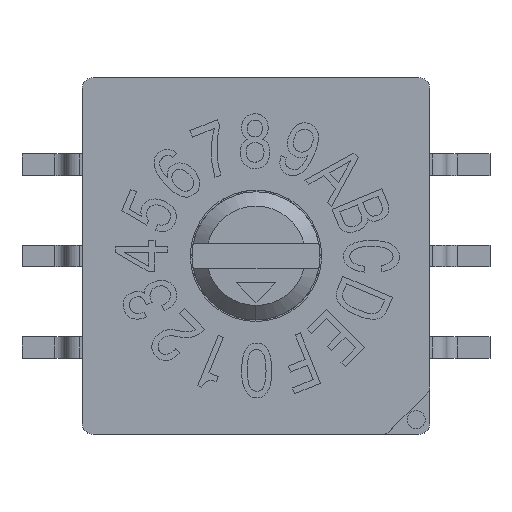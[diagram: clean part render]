
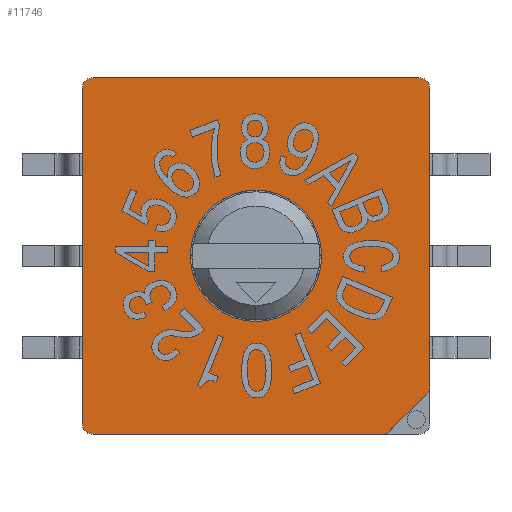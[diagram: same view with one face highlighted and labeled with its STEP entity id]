
A CAD part, top view. The second image highlights one B-rep face of the part: STEP entity #11746.
In plain terms, the highlighted planar face has unit normal (0, 0, 1) as drawn and (0, 0, -1) by its records, which use the part's own axes.
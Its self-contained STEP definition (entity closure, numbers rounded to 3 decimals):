
#594 = CARTESIAN_POINT ( 'NONE',  ( -1.825, 0., 0. ) ) ;
#595 = DIRECTION ( 'NONE',  ( 1., 0., 0. ) ) ;
#596 = DIRECTION ( 'NONE',  ( 0., 0., 1. ) ) ;
#597 = CARTESIAN_POINT ( 'NONE',  ( 0., 0., 0. ) ) ;
#598 = AXIS2_PLACEMENT_3D ( 'NONE', #597, #596, #595 ) ;
#599 = CIRCLE ( 'NONE', #598, 1.825 ) ;
#615 = CARTESIAN_POINT ( 'NONE',  ( 1.825, 0., 0. ) ) ;
#774 = AXIS2_PLACEMENT_3D ( 'NONE', #837, #836, #835 ) ;
#775 = CIRCLE ( 'NONE', #774, 1.825 ) ;
#776 = DIRECTION ( 'NONE',  ( 1., 0., 0. ) ) ;
#777 = DIRECTION ( 'NONE',  ( 0., 0., -1. ) ) ;
#778 = CARTESIAN_POINT ( 'NONE',  ( 4.525, -4.655, 0. ) ) ;
#779 = AXIS2_PLACEMENT_3D ( 'NONE', #778, #777, #776 ) ;
#780 = CIRCLE ( 'NONE', #779, 0.3 ) ;
#781 = CARTESIAN_POINT ( 'NONE',  ( 4.825, -4.655, 0. ) ) ;
#782 = DIRECTION ( 'NONE',  ( 0., 1., 0. ) ) ;
#783 = VECTOR ( 'NONE', #782, 1000. ) ;
#784 = CARTESIAN_POINT ( 'NONE',  ( 4.825, 4.955, 0. ) ) ;
#785 = LINE ( 'NONE', #784, #783 ) ;
#807 = CARTESIAN_POINT ( 'NONE',  ( -4.525, 4.955, 0. ) ) ;
#808 = DIRECTION ( 'NONE',  ( 1., 0., 0. ) ) ;
#809 = DIRECTION ( 'NONE',  ( 0., 0., -1. ) ) ;
#810 = CARTESIAN_POINT ( 'NONE',  ( -4.525, 4.655, 0. ) ) ;
#811 = AXIS2_PLACEMENT_3D ( 'NONE', #810, #809, #808 ) ;
#812 = CIRCLE ( 'NONE', #811, 0.3 ) ;
#813 = CARTESIAN_POINT ( 'NONE',  ( -4.825, 4.655, 0. ) ) ;
#814 = DIRECTION ( 'NONE',  ( 0., -1., 0. ) ) ;
#815 = VECTOR ( 'NONE', #814, 1000. ) ;
#816 = CARTESIAN_POINT ( 'NONE',  ( -4.825, 4.955, 0. ) ) ;
#817 = LINE ( 'NONE', #816, #815 ) ;
#818 = CARTESIAN_POINT ( 'NONE',  ( -4.825, -3.631, 0. ) ) ;
#819 = DIRECTION ( 'NONE',  ( 1., 0., 0. ) ) ;
#820 = DIRECTION ( 'NONE',  ( 0., 0., -1. ) ) ;
#821 = CARTESIAN_POINT ( 'NONE',  ( -4.525, -3.631, 0. ) ) ;
#822 = AXIS2_PLACEMENT_3D ( 'NONE', #821, #820, #819 ) ;
#823 = CIRCLE ( 'NONE', #822, 0.3 ) ;
#824 = CARTESIAN_POINT ( 'NONE',  ( -4.737, -3.843, 0. ) ) ;
#825 = DIRECTION ( 'NONE',  ( 0.707, -0.707, 0. ) ) ;
#826 = VECTOR ( 'NONE', #825, 1000. ) ;
#827 = CARTESIAN_POINT ( 'NONE',  ( -4.825, -3.755, 0. ) ) ;
#828 = LINE ( 'NONE', #827, #826 ) ;
#829 = CARTESIAN_POINT ( 'NONE',  ( -3.713, -4.867, 0. ) ) ;
#830 = DIRECTION ( 'NONE',  ( 1., 0., 0. ) ) ;
#831 = DIRECTION ( 'NONE',  ( 0., 0., -1. ) ) ;
#832 = CARTESIAN_POINT ( 'NONE',  ( -3.501, -4.655, 0. ) ) ;
#833 = AXIS2_PLACEMENT_3D ( 'NONE', #832, #831, #830 ) ;
#834 = CIRCLE ( 'NONE', #833, 0.3 ) ;
#835 = DIRECTION ( 'NONE',  ( 1., 0., 0. ) ) ;
#836 = DIRECTION ( 'NONE',  ( 0., 0., 1. ) ) ;
#837 = CARTESIAN_POINT ( 'NONE',  ( 0., 0., 0. ) ) ;
#843 = CARTESIAN_POINT ( 'NONE',  ( 4.525, -4.955, 0. ) ) ;
#844 = CARTESIAN_POINT ( 'NONE',  ( -3.501, -4.955, 0. ) ) ;
#845 = DIRECTION ( 'NONE',  ( 1., 0., 0. ) ) ;
#846 = VECTOR ( 'NONE', #845, 1000. ) ;
#847 = CARTESIAN_POINT ( 'NONE',  ( -4.825, -4.955, 0. ) ) ;
#848 = LINE ( 'NONE', #847, #846 ) ;
#849 = DIRECTION ( 'NONE',  ( 1., 0., 0. ) ) ;
#850 = DIRECTION ( 'NONE',  ( 0., 0., 1. ) ) ;
#851 = AXIS2_PLACEMENT_3D ( 'NONE', #852, #850, #849 ) ;
#852 = CARTESIAN_POINT ( 'NONE',  ( 4.825, -4.955, 0. ) ) ;
#853 = PLANE ( 'NONE',  #851 ) ;
#854 = FACE_BOUND ( 'NONE', #11712, .T. ) ;
#855 = FACE_OUTER_BOUND ( 'NONE', #11747, .T. ) ;
#904 = DIRECTION ( 'NONE',  ( -1., 0., 0. ) ) ;
#905 = VECTOR ( 'NONE', #904, 1000. ) ;
#906 = CARTESIAN_POINT ( 'NONE',  ( -4.825, 4.955, 0. ) ) ;
#907 = LINE ( 'NONE', #906, #905 ) ;
#958 = CARTESIAN_POINT ( 'NONE',  ( 4.825, 4.655, 0. ) ) ;
#959 = DIRECTION ( 'NONE',  ( 1., 0., 0. ) ) ;
#960 = DIRECTION ( 'NONE',  ( 0., 0., -1. ) ) ;
#961 = CARTESIAN_POINT ( 'NONE',  ( 4.525, 4.655, 0. ) ) ;
#962 = AXIS2_PLACEMENT_3D ( 'NONE', #961, #960, #959 ) ;
#963 = CIRCLE ( 'NONE', #962, 0.3 ) ;
#964 = CARTESIAN_POINT ( 'NONE',  ( 4.525, 4.955, 0. ) ) ;
#11517 = VERTEX_POINT ( 'NONE', #615 ) ;
#11521 = EDGE_CURVE ( 'NONE', #11523, #11517, #599, .T. ) ;
#11523 = VERTEX_POINT ( 'NONE', #594 ) ;
#11707 = EDGE_CURVE ( 'NONE', #11708, #11832, #785, .T. ) ;
#11708 = VERTEX_POINT ( 'NONE', #781 ) ;
#11709 = ORIENTED_EDGE ( 'NONE', *, *, #11710, .T. ) ;
#11710 = EDGE_CURVE ( 'NONE', #11708, #11754, #780, .T. ) ;
#11712 = EDGE_LOOP ( 'NONE', ( #11713, #11714 ) ) ;
#11713 = ORIENTED_EDGE ( 'NONE', *, *, #11521, .T. ) ;
#11714 = ORIENTED_EDGE ( 'NONE', *, *, #11715, .T. ) ;
#11715 = EDGE_CURVE ( 'NONE', #11517, #11523, #775, .T. ) ;
#11717 = EDGE_CURVE ( 'NONE', #11752, #11718, #834, .T. ) ;
#11718 = VERTEX_POINT ( 'NONE', #829 ) ;
#11719 = ORIENTED_EDGE ( 'NONE', *, *, #11720, .F. ) ;
#11720 = EDGE_CURVE ( 'NONE', #11721, #11718, #828, .T. ) ;
#11721 = VERTEX_POINT ( 'NONE', #824 ) ;
#11722 = ORIENTED_EDGE ( 'NONE', *, *, #11723, .T. ) ;
#11723 = EDGE_CURVE ( 'NONE', #11721, #11724, #823, .T. ) ;
#11724 = VERTEX_POINT ( 'NONE', #818 ) ;
#11725 = ORIENTED_EDGE ( 'NONE', *, *, #11726, .F. ) ;
#11726 = EDGE_CURVE ( 'NONE', #11727, #11724, #817, .T. ) ;
#11727 = VERTEX_POINT ( 'NONE', #813 ) ;
#11728 = ORIENTED_EDGE ( 'NONE', *, *, #11729, .T. ) ;
#11729 = EDGE_CURVE ( 'NONE', #11727, #11730, #812, .T. ) ;
#11730 = VERTEX_POINT ( 'NONE', #807 ) ;
#11731 = ORIENTED_EDGE ( 'NONE', *, *, #11821, .F. ) ;
#11746 = ADVANCED_FACE ( 'NONE', ( #855, #854 ), #853, .F. ) ;
#11747 = EDGE_LOOP ( 'NONE', ( #11748, #11756, #11719, #11722, #11725, #11728, #11731, #11826, #11835, #11709 ) ) ;
#11748 = ORIENTED_EDGE ( 'NONE', *, *, #11750, .F. ) ;
#11750 = EDGE_CURVE ( 'NONE', #11752, #11754, #848, .T. ) ;
#11752 = VERTEX_POINT ( 'NONE', #844 ) ;
#11754 = VERTEX_POINT ( 'NONE', #843 ) ;
#11756 = ORIENTED_EDGE ( 'NONE', *, *, #11717, .T. ) ;
#11821 = EDGE_CURVE ( 'NONE', #11823, #11730, #907, .T. ) ;
#11823 = VERTEX_POINT ( 'NONE', #964 ) ;
#11826 = ORIENTED_EDGE ( 'NONE', *, *, #11830, .T. ) ;
#11830 = EDGE_CURVE ( 'NONE', #11823, #11832, #963, .T. ) ;
#11832 = VERTEX_POINT ( 'NONE', #958 ) ;
#11835 = ORIENTED_EDGE ( 'NONE', *, *, #11707, .F. ) ;
